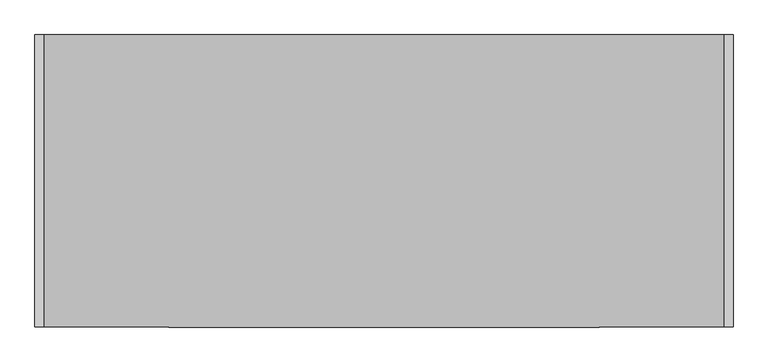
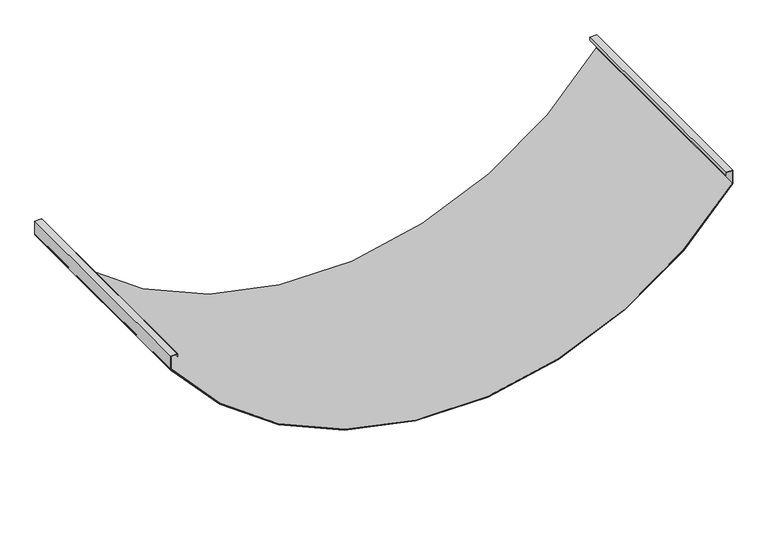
"""IFC4 building model written with IfcOpenShell, lengths in millimetres: proxy geometry, durlum_S7_DOMUS_panel : durlum_S7_DOMUS_panel."""

from ifc_helpers import new_model, si_unit, point, frame, frame_2d, origin, place, context, project, spatial, polyline, circle_curve, trimmed, segment, composite_curve, outline, extrude, source, transform, mapped, element, save


def generic_models_385183af(model_context):
    return source(origin(), model_context, "Body", "SweptSolid", [
        extrude(outline(composite_curve([segment(polyline([(0.3304807, 595.0), (2.0102268, 595.0)]), True, "CONTINUOUS"), segment(trimmed(circle_curve(frame_2d((442.0266667, 0.0)), 740.0266667), [point((2.0102268, 595.0))], [point((2.0102268, -595.0))], True, "CARTESIAN"), True, "CONTINUOUS"), segment(polyline([(2.0102268, -595.0), (0.3304807, -595.0)]), True, "CONTINUOUS"), segment(trimmed(circle_curve(frame_2d((442.0266667, 0.0)), 741.0266667), [point((0.3304807, -595.0))], [point((0.3304807, 595.0))], False, "CARTESIAN"), True, "CONTINUOUS")], self_intersect=False)), frame((0.0, -249.75, 0.0), z_axis=(0.0, 1.0, 0.0), x_axis=(0.0, 0.0, 1.0)), (0.0, 0.0, 1.0), 499.5),
        extrude(outline(polyline([(31.0, -596.0), (0.0, -596.0), (0.0, -595.0), (30.0, -595.0), (30.0, -582.0), (24.5, -582.0), (24.5, -581.0), (31.0, -581.0), (31.0, -596.0)])), frame((0.0, -249.75, 0.0), z_axis=(0.0, 1.0, 0.0), x_axis=(0.0, 0.0, 1.0)), (0.0, 0.0, 1.0), 499.5),
        extrude(outline(polyline([(31.0, 596.0), (31.0, 581.0), (24.5, 581.0), (24.5, 582.0), (30.0, 582.0), (30.0, 595.0), (0.0, 595.0), (0.0, 596.0), (31.0, 596.0)])), frame((0.0, -249.75, 0.0), z_axis=(0.0, 1.0, 0.0), x_axis=(0.0, 0.0, 1.0)), (0.0, 0.0, 1.0), 499.5),
        extrude(outline(composite_curve([segment(trimmed(circle_curve(frame_2d((442.0266667, 0.0)), 742.0266667), [point((0.0, -596.0))], [point((0.0, 596.0))], False, "CARTESIAN"), True, "CONTINUOUS"), segment(polyline([(0.0, 596.0), (1.6807564, 596.0)]), True, "CONTINUOUS"), segment(trimmed(circle_curve(frame_2d((442.0266667, 0.0)), 741.0266667), [point((1.6807564, 596.0))], [point((1.6807564, -596.0))], True, "CARTESIAN"), True, "CONTINUOUS"), segment(polyline([(1.6807564, -596.0), (0.0, -596.0)]), True, "CONTINUOUS")], self_intersect=False)), frame((0.0, -249.75, 0.0), z_axis=(0.0, 1.0, 0.0), x_axis=(0.0, 0.0, 1.0)), (0.0, 0.0, 1.0), 499.5),
    ])


if __name__ == "__main__":
    model = new_model("IFC4")
    model_context = context("Model", 3, world=origin())
    ifc_project = project(units=[si_unit("LENGTHUNIT", "METRE", prefix="MILLI")], contexts=[model_context])
    site = spatial("IfcSite", under=ifc_project)
    building = spatial("IfcBuilding", under=site)
    placement = place(None, origin())
    generic_models_shape = generic_models_385183af(model_context)
    element("IfcBuildingElementProxy", 1, Name="durlum_S7_DOMUS_panel : durlum_S7_DOMUS_panel", ObjectType="durlum_S7_DOMUS_panel : durlum_S7_DOMUS_panel", at=placement, inside=building, context=model_context, shape_type="MappedRepresentation", body=[
        mapped(generic_models_shape, transform((0.0, 0.0, 0.0), x_axis=(1.0, 0.0, 0.0), y_axis=(0.0, 1.0, 0.0), z_axis=(0.0, 0.0, 1.0))),
    ])
    save(model, "model.ifc")
